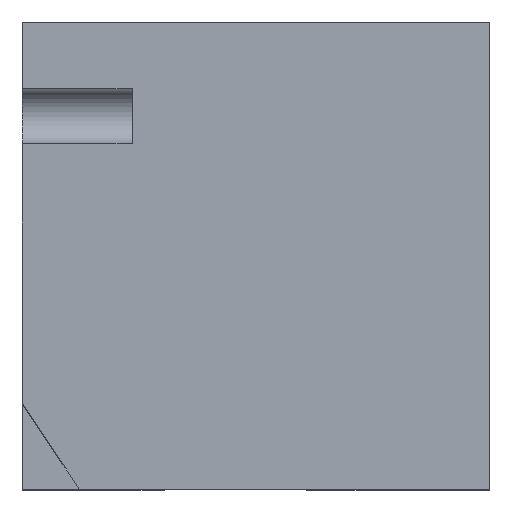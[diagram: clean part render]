
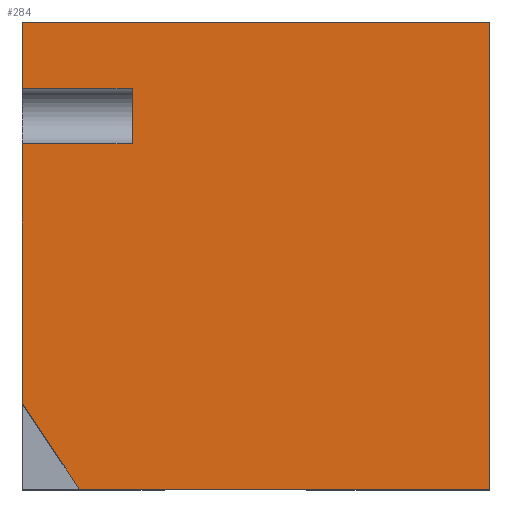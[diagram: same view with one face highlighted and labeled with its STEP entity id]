
A CAD part, top view. The second image highlights one B-rep face of the part: STEP entity #284.
In plain terms, the highlighted planar face has unit normal (0, 0, 1).
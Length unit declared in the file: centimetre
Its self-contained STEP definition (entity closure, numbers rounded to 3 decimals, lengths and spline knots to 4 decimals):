
#38 = VERTEX_POINT ( 'NONE', #297 ) ;
#44 = ORIENTED_EDGE ( 'NONE', *, *, #906, .T. ) ;
#50 = EDGE_CURVE ( 'NONE', #894, #332, #159, .T. ) ;
#53 = CARTESIAN_POINT ( 'NONE',  ( 234.7925, 739.2132, 1000. ) ) ;
#70 = DIRECTION ( 'NONE',  ( -1., 0., 0. ) ) ;
#75 = DIRECTION ( 'NONE',  ( 1., 0., 0. ) ) ;
#77 = DIRECTION ( 'NONE',  ( 0., 1., 0. ) ) ;
#122 = VERTEX_POINT ( 'NONE', #438 ) ;
#134 = CARTESIAN_POINT ( 'NONE',  ( 122.0714, 0., 1000. ) ) ;
#136 = VECTOR ( 'NONE', #919, 100. ) ;
#157 = VERTEX_POINT ( 'NONE', #541 ) ;
#159 = LINE ( 'NONE', #359, #569 ) ;
#172 = ORIENTED_EDGE ( 'NONE', *, *, #402, .T. ) ;
#205 = ORIENTED_EDGE ( 'NONE', *, *, #490, .F. ) ;
#209 = LINE ( 'NONE', #708, #295 ) ;
#210 = CARTESIAN_POINT ( 'NONE',  ( 0., 0., 1000. ) ) ;
#240 = VERTEX_POINT ( 'NONE', #679 ) ;
#241 = VERTEX_POINT ( 'NONE', #769 ) ;
#279 = LINE ( 'NONE', #210, #423 ) ;
#284 = ADVANCED_FACE ( 'NONE', ( #694 ), #409, .T. ) ;
#292 = DIRECTION ( 'NONE',  ( -0.554, 0.833, 0. ) ) ;
#295 = VECTOR ( 'NONE', #77, 100. ) ;
#297 = CARTESIAN_POINT ( 'NONE',  ( 0., 857.0627, 1000. ) ) ;
#328 = ORIENTED_EDGE ( 'NONE', *, *, #451, .T. ) ;
#332 = VERTEX_POINT ( 'NONE', #53 ) ;
#351 = LINE ( 'NONE', #493, #421 ) ;
#352 = AXIS2_PLACEMENT_3D ( 'NONE', #389, #689, #465 ) ;
#359 = CARTESIAN_POINT ( 'NONE',  ( 234.7925, 0., 1000. ) ) ;
#370 = LINE ( 'NONE', #439, #806 ) ;
#389 = CARTESIAN_POINT ( 'NONE',  ( 0., 0., 1000. ) ) ;
#390 = VERTEX_POINT ( 'NONE', #134 ) ;
#402 = EDGE_CURVE ( 'NONE', #332, #241, #351, .T. ) ;
#409 = PLANE ( 'NONE',  #352 ) ;
#410 = CARTESIAN_POINT ( 'NONE',  ( 0., 1000., 1000. ) ) ;
#417 = EDGE_CURVE ( 'NONE', #894, #38, #555, .T. ) ;
#418 = DIRECTION ( 'NONE',  ( -1., 0., 0. ) ) ;
#419 = CARTESIAN_POINT ( 'NONE',  ( 0., 1000., 1000. ) ) ;
#421 = VECTOR ( 'NONE', #418, 100. ) ;
#423 = VECTOR ( 'NONE', #75, 100. ) ;
#438 = CARTESIAN_POINT ( 'NONE',  ( 0., 1000., 1000. ) ) ;
#439 = CARTESIAN_POINT ( 'NONE',  ( 0., 183.672, 1000. ) ) ;
#447 = VERTEX_POINT ( 'NONE', #628 ) ;
#451 = EDGE_CURVE ( 'NONE', #240, #122, #489, .T. ) ;
#465 = DIRECTION ( 'NONE',  ( 1., 0., 0. ) ) ;
#478 = EDGE_CURVE ( 'NONE', #157, #240, #209, .T. ) ;
#489 = LINE ( 'NONE', #637, #136 ) ;
#490 = EDGE_CURVE ( 'NONE', #390, #447, #370, .T. ) ;
#491 = CARTESIAN_POINT ( 'NONE',  ( 234.7925, 857.0627, 1000. ) ) ;
#493 = CARTESIAN_POINT ( 'NONE',  ( 234.7925, 739.2132, 1000. ) ) ;
#541 = CARTESIAN_POINT ( 'NONE',  ( 1000., 0., 1000. ) ) ;
#545 = ORIENTED_EDGE ( 'NONE', *, *, #478, .T. ) ;
#547 = VECTOR ( 'NONE', #70, 100. ) ;
#555 = LINE ( 'NONE', #491, #547 ) ;
#561 = DIRECTION ( 'NONE',  ( 0., -1., 0. ) ) ;
#566 = ORIENTED_EDGE ( 'NONE', *, *, #50, .T. ) ;
#569 = VECTOR ( 'NONE', #868, 100. ) ;
#584 = EDGE_LOOP ( 'NONE', ( #205, #44, #545, #328, #771, #606, #566, #172, #655 ) ) ;
#606 = ORIENTED_EDGE ( 'NONE', *, *, #417, .F. ) ;
#628 = CARTESIAN_POINT ( 'NONE',  ( 0., 183.672, 1000. ) ) ;
#637 = CARTESIAN_POINT ( 'NONE',  ( 0., 1000., 1000. ) ) ;
#655 = ORIENTED_EDGE ( 'NONE', *, *, #827, .T. ) ;
#679 = CARTESIAN_POINT ( 'NONE',  ( 1000., 1000., 1000. ) ) ;
#689 = DIRECTION ( 'NONE',  ( 0., 0., 1. ) ) ;
#694 = FACE_OUTER_BOUND ( 'NONE', #584, .T. ) ;
#697 = VECTOR ( 'NONE', #561, 100. ) ;
#701 = DIRECTION ( 'NONE',  ( 0., -1., 0. ) ) ;
#708 = CARTESIAN_POINT ( 'NONE',  ( 1000., 1000., 1000. ) ) ;
#723 = VECTOR ( 'NONE', #701, 100. ) ;
#769 = CARTESIAN_POINT ( 'NONE',  ( 0., 739.2132, 1000. ) ) ;
#771 = ORIENTED_EDGE ( 'NONE', *, *, #917, .T. ) ;
#806 = VECTOR ( 'NONE', #292, 100. ) ;
#827 = EDGE_CURVE ( 'NONE', #241, #447, #908, .T. ) ;
#868 = DIRECTION ( 'NONE',  ( 0., -1., 0. ) ) ;
#894 = VERTEX_POINT ( 'NONE', #925 ) ;
#906 = EDGE_CURVE ( 'NONE', #390, #157, #279, .T. ) ;
#908 = LINE ( 'NONE', #410, #723 ) ;
#917 = EDGE_CURVE ( 'NONE', #122, #38, #920, .T. ) ;
#919 = DIRECTION ( 'NONE',  ( -1., 0., 0. ) ) ;
#920 = LINE ( 'NONE', #419, #697 ) ;
#925 = CARTESIAN_POINT ( 'NONE',  ( 234.7925, 857.0627, 1000. ) ) ;
